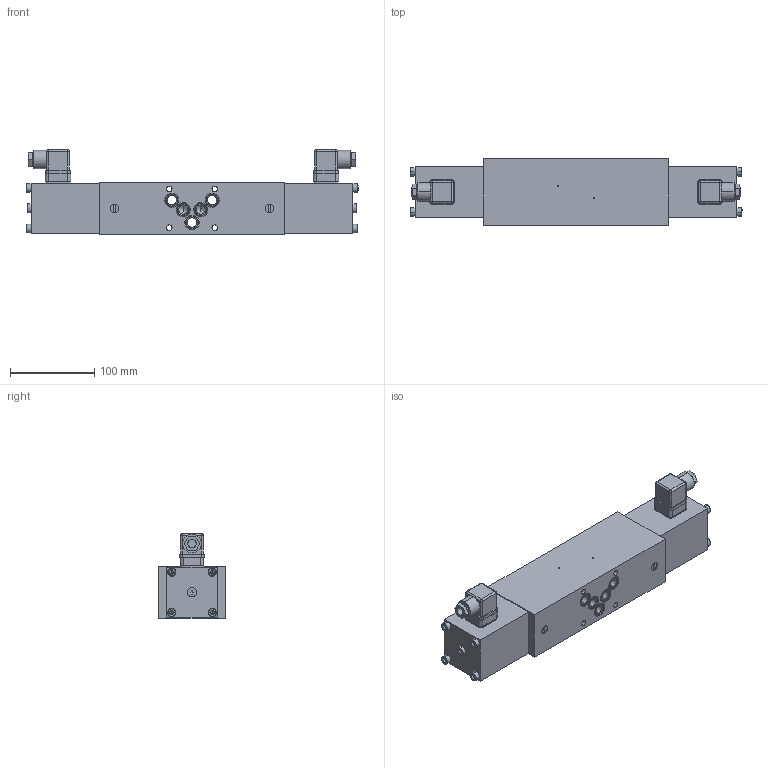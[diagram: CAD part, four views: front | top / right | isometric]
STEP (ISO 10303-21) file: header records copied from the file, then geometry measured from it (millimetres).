
FILE_DESCRIPTION (( 'STEP AP214' ), '1' );
FILE_NAME ('Z.22100AB.STEP', '2017-03-08T12:01:05', ( '' ), ( '' ), 'SwSTEP 2.0', 'SolidWorks 2016', '' );
FILE_SCHEMA (( 'AUTOMOTIVE_DESIGN' ));
Length unit declared in the file: millimetre
Products named in the file (1): Z.22100AB
Bounding box: 394.4 x 79.5 x 100.8 mm (x, y, z)
Volume: 1685457.4 mm3; surface area: 189994.4 mm2
Topology: 20 solids, 43 shells, 1163 faces, 2942 edges, 1864 vertices
Faces by surface type: plane 617, cylinder 370, cone 92, bspline 52, torus 32
Entity records: 48479 total; most frequent: CARTESIAN_POINT 7296, DIRECTION 6004, ORIENTED_EDGE 5748, EDGE_CURVE 2874, AXIS2_PLACEMENT_3D 2124, VERTEX_POINT 1864, LINE 1756, VECTOR 1756
